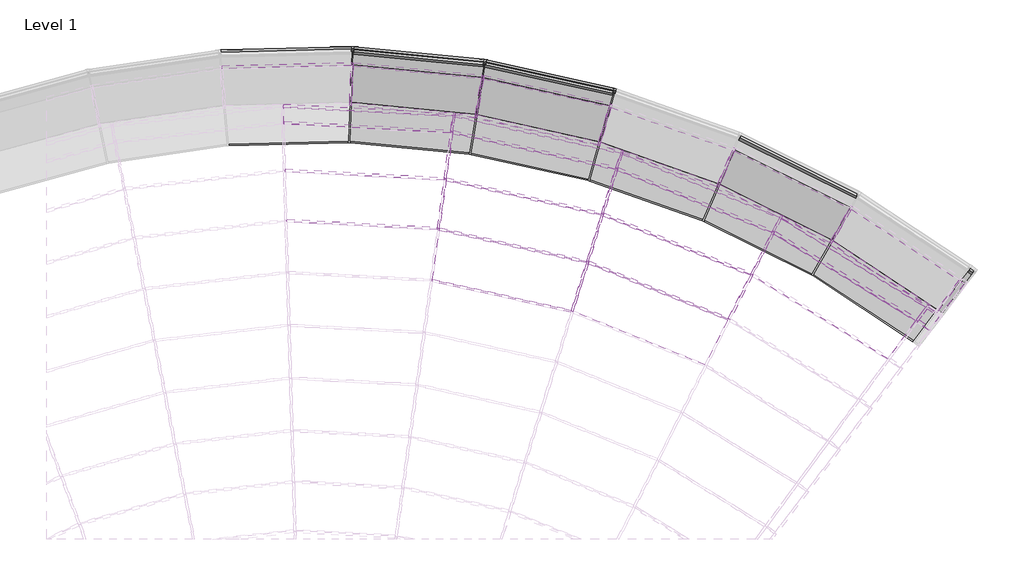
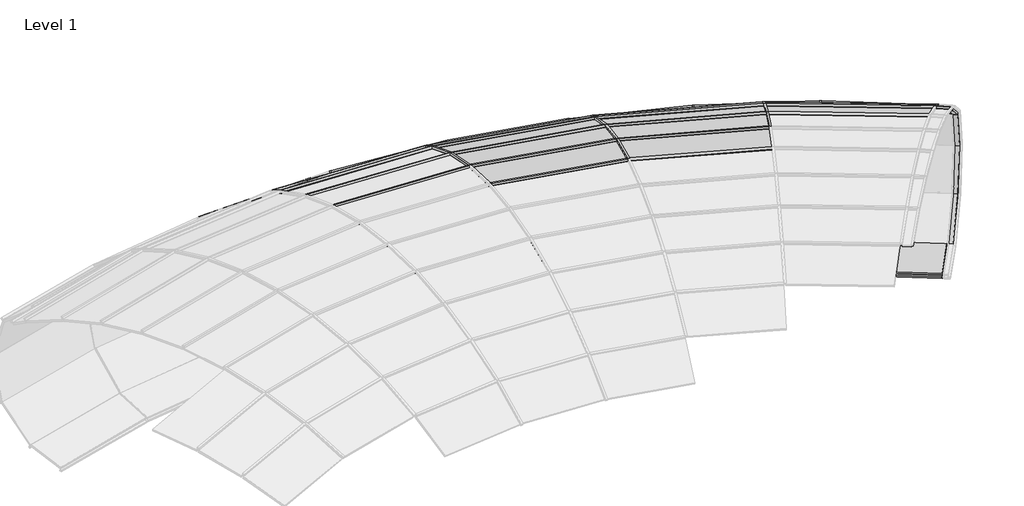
# One storey, part 12 of 23: 71 members, 34 plates.
"""IFC4 building model written with IfcOpenShell, lengths in millimetres."""

from ifc_helpers import new_model, si_unit, origin, place, context, project, spatial, transform, mapped, element, save
from components import member_6de91377, member_1c681369, member_20199af6, member_f0155a20, member_cc44513a, member_775132e8, member_b171f0c8, member_07455e61, member_515abc7c, member_6834bcaf, member_a3fa0b53, member_b335b832, member_0cd36c09, member_d0a40a1c, member_ff9adfd2, member_8c9da58c, member_391bee44, member_01ebdf2a, member_d6b8231b, system_panel_glazed_05378adf, system_panel_glazed_d39a2736, system_panel_glazed_45b67513, system_panel_glazed_45b4e97c, system_panel_glazed_73e5d392, system_panel_glazed_9a1bcf3f, system_panel_glazed_7c15174c, system_panel_glazed_a2a57e74, system_panel_glazed_cdd05a29, system_panel_glazed_56180ac8, system_panel_glazed_9e14ac5f, system_panel_glazed_7dd4ad5a, system_panel_glazed_3ffe7a12, system_panel_glazed_672f498d

model = new_model("IFC4")

# Units and contexts
model_context = context("Model", 3, world=origin())
ifc_project = project(units=[si_unit("LENGTHUNIT", "METRE", prefix="MILLI")], contexts=[model_context])

# Site, building, storey
site = spatial("IfcSite", under=ifc_project)
building = spatial("IfcBuilding", under=site)
storey = spatial("IfcBuildingStorey", under=building, Name="Level 1", Elevation=0.0)

# Members
placement = place(None, origin())
member_shape = member_6de91377(model_context)
element("IfcMember", 1, ObjectType="Rectangular Mullion : 1\" Square", at=placement, inside=storey, context=model_context, shape_type="MappedRepresentation", body=[
    mapped(member_shape, transform((2866.4116937, -3633.2019198, 2806.2019711), x_axis=(0.2147917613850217, 0.9644166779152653, -0.15415891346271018), y_axis=(0.03351267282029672, 0.1504721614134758, 0.9880460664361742), z_axis=(0.9760847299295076, -0.2173904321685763, 0.0))),
])
member_2_shape = member_1c681369(model_context)
element("IfcMember", 2, ObjectType="Rectangular Mullion : 1\" Square", at=placement, inside=storey, context=model_context, shape_type="MappedRepresentation", body=[
    mapped(member_2_shape, transform((1331.5307397, -2685.4647622, 2676.0506073), x_axis=(0.051342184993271, 0.9613900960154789, -0.27035728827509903), y_axis=(0.014417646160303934, 0.26997258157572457, 0.9627600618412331), z_axis=(0.9985770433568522, -0.053328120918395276, 0.0))),
])
element("IfcMember", 3, ObjectType="Rectangular Mullion : 1\" Square", at=placement, inside=storey, context=model_context, shape_type="MappedRepresentation", body=[
    mapped(member_2_shape, transform((3043.563615, -3064.6159726, 2676.0506073), x_axis=(0.20929482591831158, 0.939735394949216, -0.27035728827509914), y_axis=(0.05877308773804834, 0.26389162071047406, 0.9627600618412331), z_axis=(0.9760847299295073, -0.21739043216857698, 0.0))),
])
element("IfcMember", 4, ObjectType="Rectangular Mullion : 1\" Square", at=placement, inside=storey, context=model_context, shape_type="MappedRepresentation", body=[
    mapped(member_2_shape, transform((4669.5518199, -3721.1025024, 2676.0506073), x_axis=(0.3615081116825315, 0.8923109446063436, -0.27035728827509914), y_axis=(0.10151683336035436, 0.25057413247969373, 0.9627600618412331), z_axis=(0.9268258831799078, -0.37549138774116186, 0.0))),
])
member_3_shape = member_20199af6(model_context)
element("IfcMember", 5, ObjectType="Rectangular Mullion : 1\" Square", at=placement, inside=storey, context=model_context, shape_type="MappedRepresentation", body=[
    mapped(member_3_shape, transform((1409.7407637, -2114.9891047, 2475.91846), x_axis=(0.04926663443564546, 0.9225251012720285, -0.3827796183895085), y_axis=(0.020412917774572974, 0.38223493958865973, 0.9238396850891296), z_axis=(0.9985770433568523, -0.053328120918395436, 0.0))),
])
element("IfcMember", 6, ObjectType="Rectangular Mullion : 1\" Square", at=placement, inside=storey, context=model_context, shape_type="MappedRepresentation", body=[
    mapped(member_3_shape, transform((3214.8459331, -2514.8690753, 2475.91846), x_axis=(0.20083390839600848, 0.9017458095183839, -0.38277961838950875), y_axis=(0.08321262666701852, 0.37362534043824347, 0.9238396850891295), z_axis=(0.9760847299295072, -0.2173904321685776, 0.0))),
])
element("IfcMember", 7, ObjectType="Rectangular Mullion : 1\" Square", at=placement, inside=storey, context=model_context, shape_type="MappedRepresentation", body=[
    mapped(member_3_shape, transform((4929.2094692, -3207.1597149, 2475.91846), x_axis=(0.34689384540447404, 0.856238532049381, -0.3827796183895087), y_axis=(0.1437304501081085, 0.35477005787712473, 0.9238396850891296), z_axis=(0.9268258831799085, -0.37549138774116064, 0.0))),
])
member_4_shape = member_f0155a20(model_context)
element("IfcMember", 8, ObjectType="Rectangular Mullion : 1\" Square", at=placement, inside=storey, context=model_context, shape_type="MappedRepresentation", body=[
    mapped(member_4_shape, transform((1484.158, -1572.1786095, 2208.6526723), x_axis=(0.04649197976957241, 0.8705692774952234, -0.4898444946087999), y_axis=(0.026122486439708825, 0.489147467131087, 0.8718098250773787), z_axis=(0.9985770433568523, -0.05332812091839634, 0.0))),
])
element("IfcMember", 9, ObjectType="Rectangular Mullion : 1\" Square", at=placement, inside=storey, context=model_context, shape_type="MappedRepresentation", body=[
    mapped(member_4_shape, transform((3377.8219316, -1991.782101, 2208.6526723), x_axis=(0.18952311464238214, 0.8509602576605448, -0.4898444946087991), y_axis=(0.10648750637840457, 0.47812973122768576, 0.8718098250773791), z_axis=(0.9760847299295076, -0.21739043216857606, 0.0))),
])
element("IfcMember", 10, ObjectType="Rectangular Mullion : 1\" Square", at=placement, inside=storey, context=model_context, shape_type="MappedRepresentation", body=[
    mapped(member_4_shape, transform((5176.2750457, -2718.1405336, 2208.6526723), x_axis=(0.3273570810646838, 0.8080159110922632, -0.48984449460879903), y_axis=(0.18393238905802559, 0.4540005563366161, 0.8718098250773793), z_axis=(0.9268258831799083, -0.3754913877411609, 0.0))),
])
element("IfcMember", 11, ObjectType="Rectangular Mullion : 1\" Square", at=placement, inside=storey, context=model_context, shape_type="MappedRepresentation", body=[
    mapped(member_4_shape, transform((6830.1995383, -3731.3354549, 2208.6526723), x_axis=(0.45621414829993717, 0.7429138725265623, -0.4898444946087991), y_axis=(0.2563334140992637, 0.4174216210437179, 0.8718098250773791), z_axis=(0.8521512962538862, -0.5232954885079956, 0.0))),
])
member_5_shape = member_cc44513a(model_context)
element("IfcMember", 12, ObjectType="Rectangular Mullion : 1\" Square", at=placement, inside=storey, context=model_context, shape_type="MappedRepresentation", body=[
    mapped(member_5_shape, transform((6979.6758413, -3841.6645549, 2208.6526723), x_axis=(0.5216341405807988, 0.6975731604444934, -0.4912122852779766), y_axis=(0.29416918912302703, 0.3933878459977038, 0.8710398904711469), z_axis=(0.8008509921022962, -0.5988636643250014, 0.0))),
])
member_6_shape = member_775132e8(model_context)
element("IfcMember", 13, ObjectType="Rectangular Mullion : 1\" Square", at=placement, inside=storey, context=model_context, shape_type="MappedRepresentation", body=[
    mapped(member_6_shape, transform((1512.2259527, -1367.4467482, 2085.6089632), x_axis=(0.04577927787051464, 0.8572238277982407, -0.5129050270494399), y_axis=(0.027352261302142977, 0.5121751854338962, 0.8584453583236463), z_axis=(0.9985770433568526, -0.05332812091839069, 0.0))),
])
element("IfcMember", 14, ObjectType="Rectangular Mullion : 1\" Square", at=placement, inside=storey, context=model_context, shape_type="MappedRepresentation", body=[
    mapped(member_6_shape, transform((3439.291597, -1794.4893611, 2085.6089632), x_axis=(0.186617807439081, 0.8379154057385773, -0.5129050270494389), y_axis=(0.11150064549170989, 0.500638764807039, 0.858445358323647), z_axis=(0.9760847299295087, -0.2173904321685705, 0.0))),
])
element("IfcMember", 15, ObjectType="Rectangular Mullion : 1\" Square", at=placement, inside=storey, context=model_context, shape_type="MappedRepresentation", body=[
    mapped(member_6_shape, transform((5269.4607813, -2533.6971449, 2085.6089632), x_axis=(0.3223388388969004, 0.7956293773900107, -0.5129050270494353), y_axis=(0.1925914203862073, 0.47537365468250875, 0.8584453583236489), z_axis=(0.9268258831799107, -0.3754913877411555, 0.0))),
])
element("IfcMember", 16, ObjectType="Rectangular Mullion : 1\" Square", at=placement, inside=storey, context=model_context, shape_type="MappedRepresentation", body=[
    mapped(member_6_shape, transform((6952.5459728, -3564.7992878, 2085.6089632), x_axis=(0.44922058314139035, 0.7315253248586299, -0.5129050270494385), y_axis=(0.26840088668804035, 0.43707268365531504, 0.8584453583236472), z_axis=(0.8521512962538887, -0.523295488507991, 0.0))),
])
member_7_shape = member_b171f0c8(model_context)
element("IfcMember", 17, ObjectType="Rectangular Mullion : 1\" Square", at=placement, inside=storey, context=model_context, shape_type="MappedRepresentation", body=[
    mapped(member_7_shape, transform((347.4829914, -610.5149365, 1116.1918244), x_axis=(-0.0006524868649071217, 0.026521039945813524, -0.9996480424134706), y_axis=(-0.0245865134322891, 0.9993456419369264, 0.026529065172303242), z_axis=(0.9996974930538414, 0.024595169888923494, 0.0))),
])
element("IfcMember", 18, ObjectType="Rectangular Mullion : 1\" Square", at=placement, inside=storey, context=model_context, shape_type="MappedRepresentation", body=[
    mapped(member_7_shape, transform((1867.0706775, -756.638217, 1116.1918244), x_axis=(0.00256593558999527, 0.02640468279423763, -0.9996480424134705), y_axis=(0.0966876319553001, 0.9949611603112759, 0.026529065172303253), z_axis=(0.9953114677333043, -0.09672167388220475, 0.0))),
])
element("IfcMember", 19, ObjectType="Rectangular Mullion : 1\" Square", at=placement, inside=storey, context=model_context, shape_type="MappedRepresentation", body=[
    mapped(member_7_shape, transform((3357.7551818, -1085.8166758, 1116.1918244), x_axis=(0.005746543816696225, 0.025899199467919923, -0.9996480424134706), y_axis=(0.2165368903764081, 0.9759139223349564, 0.02652906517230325), z_axis=(0.9762575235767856, -0.21661312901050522, 0.0))),
])
member_8_shape = member_07455e61(model_context)
element("IfcMember", 20, ObjectType="Rectangular Mullion : 1\" Square", at=placement, inside=storey, context=model_context, shape_type="MappedRepresentation", body=[
    mapped(member_8_shape, transform((341.871143, -765.7378742, 526.7119632), x_axis=(0.012706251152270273, -0.5164594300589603, -0.8562173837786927), y_axis=(-0.02105881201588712, 0.8559583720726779, -0.5166157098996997), z_axis=(0.9996974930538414, 0.024595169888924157, 0.0))),
])
element("IfcMember", 21, ObjectType="Rectangular Mullion : 1\" Square", at=placement, inside=storey, context=model_context, shape_type="MappedRepresentation", body=[
    mapped(member_8_shape, transform((1842.6914644, -910.0373931, 526.7119632), x_axis=(-0.049967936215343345, -0.5141935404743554, -0.8562173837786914), y_axis=(0.08281477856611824, 0.8522029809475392, -0.5166157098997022), z_axis=(0.995311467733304, -0.09672167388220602, 0.0))),
])
element("IfcMember", 22, ObjectType="Rectangular Mullion : 1\" Square", at=placement, inside=storey, context=model_context, shape_type="MappedRepresentation", body=[
    mapped(member_8_shape, transform((3314.9678808, -1235.1314444, 526.7119632), x_axis=(-0.1119057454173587, -0.5043499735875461, -0.8562173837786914), y_axis=(0.1854679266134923, 0.8358886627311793, -0.5166157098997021), z_axis=(0.9762575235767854, -0.2166131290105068, 0.0))),
])
member_9_shape = member_515abc7c(model_context)
element("IfcMember", 23, ObjectType="Rectangular Mullion : 1\" Square", at=placement, inside=storey, context=model_context, shape_type="MappedRepresentation", body=[
    mapped(member_9_shape, transform((340.752181, -796.6882063, 1696.6281859), x_axis=(-0.013804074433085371, 0.5610816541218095, -0.8276453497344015), y_axis=(-0.02035607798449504, 0.827394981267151, 0.5612514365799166), z_axis=(0.9996974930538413, 0.02459516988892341, 0.0))),
])
element("IfcMember", 24, ObjectType="Rectangular Mullion : 1\" Square", at=placement, inside=storey, context=model_context, shape_type="MappedRepresentation", body=[
    mapped(member_9_shape, transform((1837.8304255, -940.6240802, 1696.6281859), x_axis=(0.054285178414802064, 0.5586199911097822, -0.8276453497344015), y_axis=(0.08005124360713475, 0.8237649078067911, 0.5612514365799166), z_axis=(0.9953114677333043, -0.09672167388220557, 0.0))),
])
element("IfcMember", 25, ObjectType="Rectangular Mullion : 1\" Square", at=placement, inside=storey, context=model_context, shape_type="MappedRepresentation", body=[
    mapped(member_9_shape, transform((3306.4364022, -1264.9037302, 1696.6281859), x_axis=(0.12157442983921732, 0.5479259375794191, -0.8276453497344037), y_axis=(0.1792788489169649, 0.8079949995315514, 0.5612514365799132), z_axis=(0.9762575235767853, -0.2166131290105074, 0.0))),
])
member_10_shape = member_6834bcaf(model_context)
element("IfcMember", 26, ObjectType="Rectangular Mullion : 1\" Square", at=placement, inside=storey, context=model_context, shape_type="MappedRepresentation", body=[
    mapped(member_10_shape, transform((325.6802554, -1213.5755484, 113.4427618), x_axis=(0.022043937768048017, -0.89599988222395, -0.44350679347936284), y_axis=(-0.010908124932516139, 0.44337262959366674, -0.8962710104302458), z_axis=(0.9996974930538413, 0.024595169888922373, 0.0))),
])
element("IfcMember", 27, ObjectType="Rectangular Mullion : 1\" Square", at=placement, inside=storey, context=model_context, shape_type="MappedRepresentation", body=[
    mapped(member_10_shape, transform((1772.3543722, -1352.6132856, 113.4427618), x_axis=(-0.08668883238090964, -0.8920688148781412, -0.44350679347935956), y_axis=(0.04289671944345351, 0.44142739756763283, -0.8962710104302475), z_axis=(0.995311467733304, -0.096721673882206, 0.0))),
])
element("IfcMember", 28, ObjectType="Rectangular Mullion : 1\" Square", at=placement, inside=storey, context=model_context, shape_type="MappedRepresentation", body=[
    mapped(member_10_shape, transform((3191.5211425, -1665.9233083, 113.4427618), x_axis=(-0.1941440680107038, -0.8749913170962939, -0.4435067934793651), y_axis=(0.09606939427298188, 0.4329768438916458, -0.8962710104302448), z_axis=(0.9762575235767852, -0.21661312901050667, 0.0))),
])
element("IfcMember", 29, ObjectType="Rectangular Mullion : 1\" Square", at=placement, inside=storey, context=model_context, shape_type="MappedRepresentation", body=[
    mapped(member_10_shape, transform((4562.2662862, -2148.8883624, 113.4427618), x_axis=(-0.29873819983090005, -0.8450190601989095, -0.44350679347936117), y_axis=(0.14782629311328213, 0.4181455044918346, -0.8962710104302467), z_axis=(0.9428164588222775, -0.3333123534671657, 0.0))),
])
element("IfcMember", 30, ObjectType="Rectangular Mullion : 1\" Square", at=placement, inside=storey, context=model_context, shape_type="MappedRepresentation", body=[
    mapped(member_10_shape, transform((5864.3891132, -2794.3909852, 113.4427618), x_axis=(-0.39892982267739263, -0.8025937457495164, -0.4435067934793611), y_axis=(0.19740467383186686, 0.39715194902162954, -0.8962710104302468), z_axis=(0.8954810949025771, -0.4450995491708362, 0.0))),
])
member_11_shape = member_a3fa0b53(model_context)
element("IfcMember", 31, ObjectType="Rectangular Mullion : 1\" Square", at=placement, inside=storey, context=model_context, shape_type="MappedRepresentation", body=[
    mapped(member_11_shape, transform((308.208576, -1696.8397434, 0.0), x_axis=(0.023942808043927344, -0.9731815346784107, -0.2287890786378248), y_axis=(-0.005627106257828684, 0.22871986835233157, -0.9734760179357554), z_axis=(0.9996974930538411, 0.02459516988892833, 0.0))),
])
element("IfcMember", 32, ObjectType="Rectangular Mullion : 1\" Square", at=placement, inside=storey, context=model_context, shape_type="MappedRepresentation", body=[
    mapped(member_11_shape, transform((1696.4532137, -1830.199462, 0.0), x_axis=(-0.09415622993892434, -0.96891184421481, -0.22878907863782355), y_axis=(0.02212886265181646, 0.22771639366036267, -0.9734760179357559), z_axis=(0.9953114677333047, -0.09672167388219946, 0.0))),
])
element("IfcMember", 33, ObjectType="Rectangular Mullion : 1\" Square", at=placement, inside=storey, context=model_context, shape_type="MappedRepresentation", body=[
    mapped(member_11_shape, transform((3058.3090614, -2130.793272, 0.0), x_axis=(-0.21086768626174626, -0.9503632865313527, -0.22878907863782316), y_axis=(0.04955871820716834, 0.22335705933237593, -0.9734760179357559), z_axis=(0.9762575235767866, -0.21661312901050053, 0.0))),
])
element("IfcMember", 34, ObjectType="Rectangular Mullion : 1\" Square", at=placement, inside=storey, context=model_context, shape_type="MappedRepresentation", body=[
    mapped(member_11_shape, transform((4373.7064307, -2594.1913184, 0.0), x_axis=(-0.32447158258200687, -0.9178092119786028, -0.22878907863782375), y_axis=(0.07625822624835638, 0.21570610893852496, -0.9734760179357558), z_axis=(0.942816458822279, -0.3333123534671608, 0.0))),
])
element("IfcMember", 35, ObjectType="Rectangular Mullion : 1\" Square", at=placement, inside=storey, context=model_context, shape_type="MappedRepresentation", body=[
    mapped(member_11_shape, transform((5623.2602924, -3213.5644976, 0.0), x_axis=(-0.4332937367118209, -0.8717293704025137, -0.22878907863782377), y_axis=(0.10183391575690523, 0.20487629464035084, -0.9734760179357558), z_axis=(0.8954810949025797, -0.4450995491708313, 0.0))),
])
element("IfcMember", 36, ObjectType="Rectangular Mullion : 1\" Square", at=placement, inside=storey, context=model_context, shape_type="MappedRepresentation", body=[
    mapped(member_11_shape, transform((6788.5559541, -3979.7850987, 0.0), x_axis=(-0.5357304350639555, -0.8128028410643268, -0.22878907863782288), y_axis=(0.12590887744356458, 0.19102721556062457, -0.9734760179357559), z_axis=(0.8349490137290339, -0.5503273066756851, 0.0))),
])
member_12_shape = member_b335b832(model_context)
element("IfcMember", 37, ObjectType="Rectangular Mullion : 1\" Square", at=placement, inside=storey, context=model_context, shape_type="MappedRepresentation", body=[
    mapped(member_12_shape, transform((349.1305982, -1266.6655463, 2085.6089632), x_axis=(-0.07441584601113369, -0.7657740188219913, 0.638789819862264), y_axis=(0.06178482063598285, 0.6357948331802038, 0.7693812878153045), z_axis=(-0.9953114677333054, 0.09672167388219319, 0.0))),
])
element("IfcMember", 38, ObjectType="Rectangular Mullion : 1\" Square", at=placement, inside=storey, context=model_context, shape_type="MappedRepresentation", body=[
    mapped(member_12_shape, transform((1789.1988854, -1408.1536208, 2085.6089632), x_axis=(-0.16665808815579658, -0.7511142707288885, 0.6387898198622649), y_axis=(0.13837026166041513, 0.6236233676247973, 0.7693812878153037), z_axis=(-0.9762575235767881, 0.2166131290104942, 0.0))),
])
element("IfcMember", 39, ObjectType="Rectangular Mullion : 1\" Square", at=placement, inside=storey, context=model_context, shape_type="MappedRepresentation", body=[
    mapped(member_12_shape, transform((3201.5115884, -1723.0954821, 2085.6089632), x_axis=(-0.2564442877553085, -0.7253853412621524, 0.6387898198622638), y_axis=(0.21291653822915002, 0.6022615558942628, 0.7693812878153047), z_axis=(-0.9428164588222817, 0.33331235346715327, 0.0))),
])
element("IfcMember", 40, ObjectType="Rectangular Mullion : 1\" Square", at=placement, inside=storey, context=model_context, shape_type="MappedRepresentation", body=[
    mapped(member_12_shape, transform((4565.2554354, -2206.8498276, 2085.6089632), x_axis=(-0.3424512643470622, -0.6889663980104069, 0.6387898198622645), y_axis=(0.28432506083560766, 0.5720242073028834, 0.7693812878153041), z_axis=(-0.8954810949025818, 0.44509954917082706, 0.0))),
])
element("IfcMember", 41, ObjectType="Rectangular Mullion : 1\" Square", at=placement, inside=storey, context=model_context, shape_type="MappedRepresentation", body=[
    mapped(member_12_shape, transform((5860.3329145, -2852.2875629, 2085.6089632), x_axis=(-0.42341153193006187, -0.6423941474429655, 0.6387898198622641), y_axis=(0.35154348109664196, 0.5333569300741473, 0.7693812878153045), z_axis=(-0.834949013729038, 0.550327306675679, 0.0))),
])
member_13_shape = member_0cd36c09(model_context)
element("IfcMember", 42, ObjectType="Rectangular Mullion : 1\" Square", at=placement, inside=storey, context=model_context, shape_type="MappedRepresentation", body=[
    mapped(member_13_shape, transform((1344.2126682, -2686.1420293, 2676.0506073), x_axis=(0.9907327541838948, -0.13582565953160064, 0.0), y_axis=(0.0445916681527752, 0.3252583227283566, 0.944573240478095), z_axis=(-0.12829728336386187, -0.9358196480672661, 0.3283007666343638))),
])
element("IfcMember", 43, ObjectType="Rectangular Mullion : 1\" Square", at=placement, inside=storey, context=model_context, shape_type="MappedRepresentation", body=[
    mapped(member_13_shape, transform((2878.8079698, -3635.9627782, 2806.2019711), x_axis=(0.9547335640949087, -0.29746230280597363, 0.0), y_axis=(0.06350906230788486, 0.20383837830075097, 0.9769424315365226), z_axis=(-0.2906035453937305, -0.9327197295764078, 0.2135028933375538))),
])
element("IfcMember", 44, ObjectType="Rectangular Mullion : 1\" Square", at=placement, inside=storey, context=model_context, shape_type="MappedRepresentation", body=[
    mapped(member_13_shape, transform((3055.959891, -3067.3768311, 2676.0506073), x_axis=(0.9547335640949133, -0.29746230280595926, 0.0), y_axis=(0.09765710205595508, 0.3134397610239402, 0.9445732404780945), z_axis=(-0.28097493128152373, -0.9018157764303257, 0.3283007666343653))),
])
element("IfcMember", 45, ObjectType="Rectangular Mullion : 1\" Square", at=placement, inside=storey, context=model_context, shape_type="MappedRepresentation", body=[
    mapped(member_13_shape, transform((4681.3225086, -3725.871243, 2676.0506073), x_axis=(0.8925533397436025, -0.4509418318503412, 0.0), y_axis=(0.14804454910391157, 0.2930259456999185, 0.9445732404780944), z_axis=(-0.4259475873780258, -0.8430820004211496, 0.3283007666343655))),
])
member_14_shape = member_d0a40a1c(model_context)
element("IfcMember", 46, ObjectType="Rectangular Mullion : 1\" Square", at=placement, inside=storey, context=model_context, shape_type="MappedRepresentation", body=[
    mapped(member_14_shape, transform((1422.4226921, -2115.6663718, 2475.91846), x_axis=(0.9907327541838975, -0.13582565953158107, 0.0), y_axis=(0.05954978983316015, 0.43436510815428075, 0.8987662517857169), z_axis=(-0.12207551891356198, -0.890437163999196, 0.4384281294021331))),
])
element("IfcMember", 47, ObjectType="Rectangular Mullion : 1\" Square", at=placement, inside=storey, context=model_context, shape_type="MappedRepresentation", body=[
    mapped(member_14_shape, transform((3227.2422092, -2517.6299338, 2475.91846), x_axis=(0.9547335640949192, -0.29746230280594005, 0.0), y_axis=(0.13041584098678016, 0.4185820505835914, 0.8987662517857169), z_axis=(-0.2673490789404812, -0.858082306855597, 0.43842812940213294))),
])
element("IfcMember", 48, ObjectType="Rectangular Mullion : 1\" Square", at=placement, inside=storey, context=model_context, shape_type="MappedRepresentation", body=[
    mapped(member_14_shape, transform((4940.9801579, -3211.9284555, 2475.91846), x_axis=(0.8925533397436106, -0.4509418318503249, 0.0), y_axis=(0.19770558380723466, 0.3913204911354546, 0.8987662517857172), z_axis=(-0.4052912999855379, -0.8021968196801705, 0.4384281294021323))),
])
member_15_shape = member_ff9adfd2(model_context)
element("IfcMember", 49, ObjectType="Rectangular Mullion : 1\" Square", at=placement, inside=storey, context=model_context, shape_type="MappedRepresentation", body=[
    mapped(member_15_shape, transform((1496.8399284, -1572.8558767, 2208.6526723), x_axis=(0.9907327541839, -0.1358256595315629, 0.0), y_axis=(0.06948914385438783, 0.5068642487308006, 0.8592205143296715), z_axis=(-0.11670419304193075, -0.8512579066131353, 0.5116054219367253))),
])
element("IfcMember", 50, ObjectType="Rectangular Mullion : 1\" Square", at=placement, inside=storey, context=model_context, shape_type="MappedRepresentation", body=[
    mapped(member_15_shape, transform((3390.2182077, -1994.5429595, 2208.6526723), x_axis=(0.954733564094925, -0.2974623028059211, 0.0), y_axis=(0.15218332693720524, 0.4884468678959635, 0.8592205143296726), z_axis=(-0.25558571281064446, -0.8203266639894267, 0.5116054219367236))),
])
element("IfcMember", 51, ObjectType="Rectangular Mullion : 1\" Square", at=placement, inside=storey, context=model_context, shape_type="MappedRepresentation", body=[
    mapped(member_15_shape, transform((5188.0457344, -2722.9092742, 2208.6526723), x_axis=(0.8925533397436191, -0.4509418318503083, 0.0), y_axis=(0.2307042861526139, 0.45663512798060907, 0.8592205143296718), z_axis=(-0.3874584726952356, -0.7669001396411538, 0.511605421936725))),
])
element("IfcMember", 52, ObjectType="Rectangular Mullion : 1\" Square", at=placement, inside=storey, context=model_context, shape_type="MappedRepresentation", body=[
    mapped(member_15_shape, transform((6841.0218598, -3737.9813076, 2208.6526723), x_axis=(0.8058972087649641, -0.592055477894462, 0.0), y_axis=(0.30289879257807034, 0.41230138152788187, 0.8592205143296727), z_axis=(-0.5087062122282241, -0.6924434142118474, 0.5116054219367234))),
])
member_16_shape = member_8c9da58c(model_context)
element("IfcMember", 53, ObjectType="Rectangular Mullion : 1\" Square", at=placement, inside=storey, context=model_context, shape_type="MappedRepresentation", body=[
    mapped(member_16_shape, transform((353.4483391, -796.3758477, 1696.6281859), x_axis=(0.999347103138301, -0.036129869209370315, 0.0), y_axis=(0.03440139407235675, 0.951537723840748, 0.3056018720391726), z_axis=(-0.011041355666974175, -0.3054023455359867, 0.9521593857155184))),
])
element("IfcMember", 54, ObjectType="Rectangular Mullion : 1\" Square", at=placement, inside=storey, context=model_context, shape_type="MappedRepresentation", body=[
    mapped(member_16_shape, transform((360.1791495, -610.2025778, 1116.1918244), x_axis=(0.9993471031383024, -0.03612986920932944, 0.0), y_axis=(0.03493738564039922, 0.9663631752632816, -0.25479715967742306), z_axis=(0.00920578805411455, 0.25463080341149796, 0.9669945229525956))),
])
element("IfcMember", 55, ObjectType="Rectangular Mullion : 1\" Square", at=placement, inside=storey, context=model_context, shape_type="MappedRepresentation", body=[
    mapped(member_16_shape, transform((1850.4708811, -941.8524455, 1696.6281859), x_axis=(0.9876054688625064, -0.15695680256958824, 0.0), y_axis=(0.14944789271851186, 0.9403578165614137, 0.30560187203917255), z_axis=(-0.047966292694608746, -0.30181408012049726, 0.9521593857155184))),
])
element("IfcMember", 56, ObjectType="Rectangular Mullion : 1\" Square", at=placement, inside=storey, context=model_context, shape_type="MappedRepresentation", body=[
    mapped(member_16_shape, transform((1879.7111332, -757.8665822, 1116.1918244), x_axis=(0.9876054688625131, -0.15695680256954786, 0.0), y_axis=(0.15177636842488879, 0.9550090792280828, -0.254797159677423), z_axis=(0.039992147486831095, 0.25163906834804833, 0.9669945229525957))),
])
element("IfcMember", 57, ObjectType="Rectangular Mullion : 1\" Square", at=placement, inside=storey, context=model_context, shape_type="MappedRepresentation", body=[
    mapped(member_16_shape, transform((3318.8348727, -1267.654717, 1696.6281859), x_axis=(0.9613094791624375, -0.2754706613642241, 0.0), y_axis=(0.2622919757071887, 0.9153198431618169, 0.3056018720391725), z_axis=(-0.0841843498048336, -0.29377797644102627, 0.9521593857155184))),
])
element("IfcMember", 58, ObjectType="Rectangular Mullion : 1\" Square", at=placement, inside=storey, context=model_context, shape_type="MappedRepresentation", body=[
    mapped(member_16_shape, transform((3370.1536524, -1088.5676625, 1116.1918244), x_axis=(0.9613094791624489, -0.2754706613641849, 0.0), y_axis=(0.2663786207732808, 0.9295810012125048, -0.2547971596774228), z_axis=(0.07018914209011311, 0.24493892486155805, 0.9669945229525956))),
])
member_17_shape = member_391bee44(model_context)
element("IfcMember", 59, ObjectType="Rectangular Mullion : 1\" Square", at=placement, inside=storey, context=model_context, shape_type="MappedRepresentation", body=[
    mapped(member_17_shape, transform((354.5673011, -765.4255156, 526.7119632), x_axis=(0.999347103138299, -0.03612986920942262, 0.0), y_axis=(0.02449370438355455, 0.6774924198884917, -0.7351218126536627), z_axis=(0.02655985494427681, 0.7346418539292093, 0.6779350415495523))),
])
element("IfcMember", 60, ObjectType="Rectangular Mullion : 1\" Square", at=placement, inside=storey, context=model_context, shape_type="MappedRepresentation", body=[
    mapped(member_17_shape, transform((1855.3319201, -911.2657583, 526.7119632), x_axis=(0.9876054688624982, -0.15695680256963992, 0.0), y_axis=(0.10640651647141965, 0.6695323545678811, -0.7351218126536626), z_axis=(0.11538236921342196, 0.7260103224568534, 0.6779350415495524))),
])
element("IfcMember", 61, ObjectType="Rectangular Mullion : 1\" Square", at=placement, inside=storey, context=model_context, shape_type="MappedRepresentation", body=[
    mapped(member_17_shape, transform((3327.3663514, -1237.8824311, 526.7119632), x_axis=(0.9613094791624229, -0.2754706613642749, 0.0), y_axis=(0.18675121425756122, 0.6517053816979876, -0.7351218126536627), z_axis=(0.20250449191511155, 0.7066795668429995, 0.6779350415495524))),
])
member_18_shape = member_01ebdf2a(model_context)
element("IfcMember", 62, ObjectType="Rectangular Mullion : 1\" Square", at=placement, inside=storey, context=model_context, shape_type="MappedRepresentation", body=[
    mapped(member_18_shape, transform((338.3764136, -1213.2631897, 113.4427618), x_axis=(0.9993471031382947, -0.0361298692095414, 0.0), y_axis=(0.008251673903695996, 0.22824014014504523, -0.9735698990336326), z_axis=(0.03517495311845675, 0.9729342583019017, 0.22838925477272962))),
])
element("IfcMember", 63, ObjectType="Rectangular Mullion : 1\" Square", at=placement, inside=storey, context=model_context, shape_type="MappedRepresentation", body=[
    mapped(member_18_shape, transform((1784.9948278, -1353.8416509, 113.4427618), x_axis=(0.9876054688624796, -0.15695680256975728, 0.0), y_axis=(0.035847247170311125, 0.2255584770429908, -0.9735698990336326), z_axis=(0.15280841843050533, 0.9615029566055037, 0.22838925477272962))),
])
element("IfcMember", 64, ObjectType="Rectangular Mullion : 1\" Square", at=placement, inside=storey, context=model_context, shape_type="MappedRepresentation", body=[
    mapped(member_18_shape, transform((3203.9196131, -1668.6742951, 113.4427618), x_axis=(0.9613094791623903, -0.27547066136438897, 0.0), y_axis=(0.06291453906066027, 0.21955275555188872, -0.9735698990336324), z_axis=(0.26818994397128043, 0.9359019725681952, 0.22838925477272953))),
])
element("IfcMember", 65, ObjectType="Rectangular Mullion : 1\" Square", at=placement, inside=storey, context=model_context, shape_type="MappedRepresentation", body=[
    mapped(member_18_shape, transform((4574.2400553, -2153.1214293, 113.4427618), x_axis=(0.92084665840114, -0.3899249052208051, 0.0), y_axis=(0.08905465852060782, 0.21031148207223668, -0.9735698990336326), z_axis=(0.3796191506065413, 0.896508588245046, 0.2283892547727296))),
])
element("IfcMember", 66, ObjectType="Rectangular Mullion : 1\" Square", at=placement, inside=storey, context=model_context, shape_type="MappedRepresentation", body=[
    mapped(member_18_shape, transform((5875.7617231, -2800.0437495, 113.4427618), x_axis=(0.8668133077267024, -0.4986328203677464, 0.0), y_axis=(0.11388237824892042, 0.19797084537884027, -0.9735698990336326), z_axis=(0.48545390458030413, 0.8439033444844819, 0.22838925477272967))),
])
member_19_shape = member_d6b8231b(model_context)
element("IfcMember", 67, ObjectType="Rectangular Mullion : 1\" Square", at=placement, inside=storey, context=model_context, shape_type="MappedRepresentation", body=[
    mapped(member_19_shape, transform((5849.729062, -2845.2984061, 2085.6089632), x_axis=(0.8668133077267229, -0.49863282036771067, 0.0), y_axis=(0.31817352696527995, 0.5531064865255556, 0.7699602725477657), z_axis=(-0.38392746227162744, -0.6674118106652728, 0.6380918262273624))),
])
element("IfcMember", 68, ObjectType="Rectangular Mullion : 1\" Square", at=placement, inside=storey, context=model_context, shape_type="MappedRepresentation", body=[
    mapped(member_19_shape, transform((4553.8828255, -2201.1970633, 2085.6089632), x_axis=(0.9208466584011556, -0.3899249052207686, 0.0), y_axis=(0.24880789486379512, 0.5875847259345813, 0.7699602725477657), z_axis=(-0.3002266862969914, -0.7090153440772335, 0.6380918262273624))),
])
element("IfcMember", 69, ObjectType="Rectangular Mullion : 1\" Square", at=placement, inside=storey, context=model_context, shape_type="MappedRepresentation", body=[
    mapped(member_19_shape, transform((3189.5378194, -1718.8624152, 2085.6089632), x_axis=(0.9613094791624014, -0.2754706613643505, 0.0), y_axis=(0.17577557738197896, 0.6134037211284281, 0.7699602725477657), z_axis=(-0.21210146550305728, -0.7401701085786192, 0.6380918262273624))),
])
element("IfcMember", 70, ObjectType="Rectangular Mullion : 1\" Square", at=placement, inside=storey, context=model_context, shape_type="MappedRepresentation", body=[
    mapped(member_19_shape, transform((1776.8004148, -1405.402634, 2085.6089632), x_axis=(0.987605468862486, -0.15695680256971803, 0.0), y_axis=(0.10015285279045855, 0.6301829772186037, 0.7699602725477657), z_axis=(-0.12085050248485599, -0.7604169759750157, 0.6380918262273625))),
])
element("IfcMember", 71, ObjectType="Rectangular Mullion : 1\" Square", at=placement, inside=storey, context=model_context, shape_type="MappedRepresentation", body=[
    mapped(member_19_shape, transform((336.4901425, -1265.4371811, 2085.6089632), x_axis=(0.9993471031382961, -0.03612986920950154, 0.0), y_axis=(0.023054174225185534, 0.6376752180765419, 0.7699602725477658), z_axis=(-0.027818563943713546, -0.7694575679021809, 0.6380918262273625))),
])

# Plates
system_panel_glazed_shape = system_panel_glazed_05378adf(model_context)
element("IfcPlate", 72, ObjectType="System Panel : Glazed", at=placement, inside=storey, context=model_context, shape_type="MappedRepresentation", body=[
    mapped(system_panel_glazed_shape, transform((2073.762009, -3443.9563869, 2803.4815699), x_axis=(0.97608472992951, -0.2173904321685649, 0.0), y_axis=(-0.046566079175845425, -0.20908205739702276, -0.9767887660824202), z_axis=(0.21234453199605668, 0.9534285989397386, -0.21420482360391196))),
])
element("IfcPlate", 73, ObjectType="System Panel : Glazed", at=placement, inside=storey, context=model_context, shape_type="MappedRepresentation", body=[
    mapped(system_panel_glazed_shape, transform((3650.4454164, -3935.1969746, 2803.4815699), x_axis=(0.9268258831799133, -0.3754913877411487, 0.0), y_axis=(-0.08043206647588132, -0.19853057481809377, -0.97678876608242), z_axis=(0.3667757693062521, 0.9053131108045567, -0.21420482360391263))),
])
system_panel_glazed_2_shape = system_panel_glazed_d39a2736(model_context)
element("IfcPlate", 74, ObjectType="System Panel : Glazed", at=placement, inside=storey, context=model_context, shape_type="MappedRepresentation", body=[
    mapped(system_panel_glazed_2_shape, transform((2202.6931431, -2865.054593, 2671.8683773), x_axis=(0.9760847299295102, -0.2173904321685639, 0.0), y_axis=(-0.07158872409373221, -0.3214339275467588, -0.9442220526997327), z_axis=(0.2052648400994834, 0.9216407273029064, -0.32930945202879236))),
])
element("IfcPlate", 75, ObjectType="System Panel : Glazed", at=placement, inside=storey, context=model_context, shape_type="MappedRepresentation", body=[
    mapped(system_panel_glazed_2_shape, transform((3873.1439499, -3385.5098932, 2671.8683773), x_axis=(0.9268258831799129, -0.3754913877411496, 0.0), y_axis=(-0.12365286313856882, -0.3052125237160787, -0.9442220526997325), z_axis=(0.3545472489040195, 0.87512943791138, -0.32930945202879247))),
])
system_panel_glazed_3_shape = system_panel_glazed_45b67513(model_context)
element("IfcPlate", 76, ObjectType="System Panel : Glazed", at=placement, inside=storey, context=model_context, shape_type="MappedRepresentation", body=[
    mapped(system_panel_glazed_3_shape, transform((2327.3121725, -2305.5141825, 2470.3349411), x_axis=(0.9760847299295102, -0.2173904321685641, 0.0), y_axis=(-0.09557508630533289, -0.42913288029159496, -0.898170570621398), z_axis=(0.19525368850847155, 0.8766905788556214, -0.43964716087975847))),
])
element("IfcPlate", 77, ObjectType="System Panel : Glazed", at=placement, inside=storey, context=model_context, shape_type="MappedRepresentation", body=[
    mapped(system_panel_glazed_3_shape, transform((4088.394326, -2854.2071085, 2470.3349411), x_axis=(0.926825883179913, -0.3754913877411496, 0.0), y_axis=(-0.1650837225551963, -0.4074763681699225, -0.8981705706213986), z_axis=(0.33725531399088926, 0.8324477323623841, -0.43964716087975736))),
])
element("IfcPlate", 78, ObjectType="System Panel : Glazed", at=placement, inside=storey, context=model_context, shape_type="MappedRepresentation", body=[
    mapped(system_panel_glazed_3_shape, transform((5734.7800998, -3686.0052585, 2470.3349411), x_axis=(0.8521512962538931, -0.5232954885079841, 0.0), y_axis=(-0.23006537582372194, -0.3746458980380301, -0.8981705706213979), z_axis=(0.4700086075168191, 0.7653772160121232, -0.43964716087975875))),
])
system_panel_glazed_4_shape = system_panel_glazed_45b4e97c(model_context)
element("IfcPlate", 79, ObjectType="System Panel : Glazed", at=placement, inside=storey, context=model_context, shape_type="MappedRepresentation", body=[
    mapped(system_panel_glazed_4_shape, transform((528.9172466, -1510.2470331, 2202.1387785), x_axis=(0.998577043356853, -0.05332812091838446, 0.0), y_axis=(-0.02735226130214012, -0.5121751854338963, -0.8584453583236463), z_axis=(0.04577927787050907, 0.8572238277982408, -0.5129050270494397))),
])
element("IfcPlate", 80, ObjectType="System Panel : Glazed", at=placement, inside=storey, context=model_context, shape_type="MappedRepresentation", body=[
    mapped(system_panel_glazed_4_shape, transform((2445.8991142, -1773.0578924, 2202.1387785), x_axis=(0.9760847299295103, -0.21739043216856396, 0.0), y_axis=(-0.11150064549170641, -0.5006387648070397, -0.858445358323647), z_axis=(0.18661780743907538, 0.8379154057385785, -0.5129050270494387))),
])
element("IfcPlate", 81, ObjectType="System Panel : Glazed", at=placement, inside=storey, context=model_context, shape_type="MappedRepresentation", body=[
    mapped(system_panel_glazed_4_shape, transform((4293.2256743, -2348.6216238, 2202.1387785), x_axis=(0.9268258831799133, -0.37549138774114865, 0.0), y_axis=(-0.19259142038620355, -0.4753736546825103, -0.8584453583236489), z_axis=(0.32233883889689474, 0.7956293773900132, -0.5129050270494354))),
])
element("IfcPlate", 82, ObjectType="System Panel : Glazed", at=placement, inside=storey, context=model_context, shape_type="MappedRepresentation", body=[
    mapped(system_panel_glazed_4_shape, transform((6020.2388985, -3221.1549193, 2202.1387785), x_axis=(0.8521512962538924, -0.523295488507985, 0.0), y_axis=(-0.2684008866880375, -0.43707268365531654, -0.8584453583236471), z_axis=(0.4492205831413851, 0.7315253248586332, -0.5129050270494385))),
])
system_panel_glazed_5_shape = system_panel_glazed_73e5d392(model_context)
element("IfcPlate", 83, ObjectType="System Panel : Glazed", at=placement, inside=storey, context=model_context, shape_type="MappedRepresentation", body=[
    mapped(system_panel_glazed_5_shape, transform((6921.9689186, -3784.8867303, 2202.1551112), x_axis=(0.8008509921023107, -0.598863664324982, 0.0), y_axis=(-0.30639001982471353, -0.4097305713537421, -0.8592124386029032), z_axis=(0.5145511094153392, 0.6881011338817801, -0.5116189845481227))),
])
system_panel_glazed_6_shape = system_panel_glazed_9a1bcf3f(model_context)
element("IfcPlate", 84, ObjectType="System Panel : Glazed", at=placement, inside=storey, context=model_context, shape_type="MappedRepresentation", body=[
    mapped(system_panel_glazed_6_shape, transform((1058.5354412, -1315.9692475, 2069.3837017), x_axis=(0.9953114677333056, -0.09672167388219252, 0.0), y_axis=(-0.06178482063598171, -0.6357948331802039, -0.7693812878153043), z_axis=(0.07441584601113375, 0.7657740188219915, -0.6387898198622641))),
])
element("IfcPlate", 85, ObjectType="System Panel : Glazed", at=placement, inside=storey, context=model_context, shape_type="MappedRepresentation", body=[
    mapped(system_panel_glazed_6_shape, transform((2487.4022325, -1543.0542221, 2069.3837017), x_axis=(0.9762575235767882, -0.21661312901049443, 0.0), y_axis=(-0.1383702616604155, -0.6236233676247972, -0.7693812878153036), z_axis=(0.16665808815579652, 0.7511142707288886, -0.638789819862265))),
])
element("IfcPlate", 86, ObjectType="System Panel : Glazed", at=placement, inside=storey, context=model_context, shape_type="MappedRepresentation", body=[
    mapped(system_panel_glazed_6_shape, transform((3878.2240073, -1941.6049516, 2069.3837017), x_axis=(0.9428164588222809, -0.33331235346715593, 0.0), y_axis=(-0.21291653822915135, -0.6022615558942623, -0.7693812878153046), z_axis=(0.2564442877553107, 0.7253853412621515, -0.6387898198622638))),
])
element("IfcPlate", 87, ObjectType="System Panel : Glazed", at=placement, inside=storey, context=model_context, shape_type="MappedRepresentation", body=[
    mapped(system_panel_glazed_6_shape, transform((5210.5042059, -2505.7479882, 2069.3837017), x_axis=(0.8954810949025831, -0.44509954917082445, 0.0), y_axis=(-0.2843250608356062, -0.5720242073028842, -0.7693812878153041), z_axis=(0.34245126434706, 0.688966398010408, -0.6387898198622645))),
])
element("IfcPlate", 88, ObjectType="System Panel : Glazed", at=placement, inside=storey, context=model_context, shape_type="MappedRepresentation", body=[
    mapped(system_panel_glazed_6_shape, transform((6464.6089965, -3227.1695483, 2069.3837017), x_axis=(0.8349490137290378, -0.5503273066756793, 0.0), y_axis=(-0.3515434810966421, -0.5333569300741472, -0.7693812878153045), z_axis=(0.4234115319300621, 0.6423941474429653, -0.6387898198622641))),
])
system_panel_glazed_7_shape = system_panel_glazed_7c15174c(model_context)
element("IfcPlate", 89, ObjectType="System Panel : Glazed", at=placement, inside=storey, context=model_context, shape_type="MappedRepresentation", body=[
    mapped(system_panel_glazed_7_shape, transform((7098.2968442, -3647.6236402, 2069.4013708), x_axis=(0.7978814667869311, -0.6028143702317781, 0.0), y_axis=(-0.3846523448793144, -0.509123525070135, -0.7699583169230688), z_axis=(0.4641419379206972, 0.6143354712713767, -0.6380941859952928))),
])
system_panel_glazed_8_shape = system_panel_glazed_a2a57e74(model_context)
element("IfcPlate", 90, ObjectType="System Panel : Glazed", at=placement, inside=storey, context=model_context, shape_type="MappedRepresentation", body=[
    mapped(system_panel_glazed_8_shape, transform((1102.3343732, -865.2576587, 1684.5336808), x_axis=(0.9953114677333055, -0.09672167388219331, 0.0), y_axis=(-0.09211029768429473, -0.9478582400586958, -0.30509088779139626), z_axis=(0.029508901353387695, 0.30366045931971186, -0.9523232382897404))),
])
element("IfcPlate", 91, ObjectType="System Panel : Glazed", at=placement, inside=storey, context=model_context, shape_type="MappedRepresentation", body=[
    mapped(system_panel_glazed_8_shape, transform((2585.4921779, -1100.9709208, 1684.5336808), x_axis=(0.9762575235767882, -0.21661312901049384, 0.0), y_axis=(-0.20628571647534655, -0.9297127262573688, -0.30509088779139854), z_axis=(0.06608669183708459, 0.29784727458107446, -0.9523232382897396))),
])
element("IfcPlate", 92, ObjectType="System Panel : Glazed", at=placement, inside=storey, context=model_context, shape_type="MappedRepresentation", body=[
    mapped(system_panel_glazed_8_shape, transform((5412.0607351, -2100.2430583, 1684.5336808), x_axis=(0.8954810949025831, -0.44509954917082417, 0.0), y_axis=(-0.4238786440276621, -0.852787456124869, -0.30509088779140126), z_axis=(0.13579581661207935, 0.2732031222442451, -0.9523232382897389))),
])
system_panel_glazed_9_shape = system_panel_glazed_cdd05a29(model_context)
element("IfcPlate", 93, ObjectType="System Panel : Glazed", at=placement, inside=storey, context=model_context, shape_type="MappedRepresentation", body=[
    mapped(system_panel_glazed_9_shape, transform((7371.7871297, -3285.6335796, 1684.5357546), x_axis=(0.7978814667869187, -0.6028143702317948, 0.0), y_axis=(-0.5739756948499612, -0.7597107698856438, -0.30560014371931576), z_axis=(0.18422015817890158, 0.24383269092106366, -0.9521599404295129))),
])
system_panel_glazed_10_shape = system_panel_glazed_56180ac8(model_context)
element("IfcPlate", 94, ObjectType="System Panel : Glazed", at=placement, inside=storey, context=model_context, shape_type="MappedRepresentation", body=[
    mapped(system_panel_glazed_10_shape, transform((1119.6326971, -687.2497783, 1103.9095249), x_axis=(0.9953114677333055, -0.09672167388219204, 0.0), y_axis=(-0.09354051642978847, -0.9625758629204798, 0.2543577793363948), z_axis=(-0.0246019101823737, -0.2531652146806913, -0.9671101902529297))),
])
element("IfcPlate", 95, ObjectType="System Panel : Glazed", at=placement, inside=storey, context=model_context, shape_type="MappedRepresentation", body=[
    mapped(system_panel_glazed_10_shape, transform((2624.2326579, -926.3707698, 1103.9095249), x_axis=(0.976257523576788, -0.216613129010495, 0.0), y_axis=(-0.20948876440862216, -0.9441485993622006, 0.2543577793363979), z_axis=(-0.05509723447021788, -0.24831869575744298, -0.967110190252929))),
])
system_panel_glazed_11_shape = system_panel_glazed_9e14ac5f(model_context)
element("IfcPlate", 96, ObjectType="System Panel : Glazed", at=placement, inside=storey, context=model_context, shape_type="MappedRepresentation", body=[
    mapped(system_panel_glazed_11_shape, transform((7479.7974276, -3142.6718023, 1103.9109889), x_axis=(0.7978814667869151, -0.6028143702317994, 0.0), y_axis=(-0.5829184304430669, -0.7715473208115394, 0.25479567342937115), z_axis=(-0.15359449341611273, -0.20329674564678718, -0.9669949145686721))),
])
system_panel_glazed_12_shape = system_panel_glazed_7dd4ad5a(model_context)
element("IfcPlate", 97, ObjectType="System Panel : Glazed", at=placement, inside=storey, context=model_context, shape_type="MappedRepresentation", body=[
    mapped(system_panel_glazed_12_shape, transform((1104.0473789, -847.6300254, 518.0936043), x_axis=(0.9953114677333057, -0.09672167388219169, 0.0), y_axis=(-0.06563638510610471, -0.6754292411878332, 0.7344979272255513), z_axis=(-0.07104186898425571, -0.7310542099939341, -0.6786109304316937))),
])
element("IfcPlate", 98, ObjectType="System Panel : Glazed", at=placement, inside=storey, context=model_context, shape_type="MappedRepresentation", body=[
    mapped(system_panel_glazed_12_shape, transform((2589.3285417, -1083.6807456, 518.0936043), x_axis=(0.9762575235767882, -0.21661312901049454, 0.0), y_axis=(-0.14699603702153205, -0.6624990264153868, 0.7344979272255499), z_axis=(-0.15910189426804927, -0.7170591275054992, -0.6786109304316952))),
])
element("IfcPlate", 99, ObjectType="System Panel : Glazed", at=placement, inside=storey, context=model_context, shape_type="MappedRepresentation", body=[
    mapped(system_panel_glazed_12_shape, transform((5419.9437465, -2084.3834878, 518.0936043), x_axis=(0.8954810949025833, -0.4450995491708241, 0.0), y_axis=(-0.30204941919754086, -0.6076832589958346, 0.7344979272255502), z_axis=(-0.3269246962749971, -0.6577290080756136, -0.6786109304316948))),
])
system_panel_glazed_13_shape = system_panel_glazed_3ffe7a12(model_context)
element("IfcPlate", 100, ObjectType="System Panel : Glazed", at=placement, inside=storey, context=model_context, shape_type="MappedRepresentation", body=[
    mapped(system_panel_glazed_13_shape, transform((7382.4890102, -3271.4686058, 518.1021591), x_axis=(0.7978814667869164, -0.6028143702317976, 0.0), y_axis=(-0.4086703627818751, -0.5409136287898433, 0.7351197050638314), z_axis=(-0.44314072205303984, -0.586538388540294, -0.67793732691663))),
])
system_panel_glazed_14_shape = system_panel_glazed_672f498d(model_context)
element("IfcPlate", 101, ObjectType="System Panel : Glazed", at=placement, inside=storey, context=model_context, shape_type="MappedRepresentation", body=[
    mapped(system_panel_glazed_14_shape, transform((1060.4898366, -1295.8576007, 110.5371405), x_axis=(0.9953114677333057, -0.09672167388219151, 0.0), y_axis=(-0.022128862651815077, -0.22771639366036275, 0.9734760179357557), z_axis=(-0.09415622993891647, -0.9689118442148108, -0.22878907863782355))),
])
element("IfcPlate", 102, ObjectType="System Panel : Glazed", at=placement, inside=storey, context=model_context, shape_type="MappedRepresentation", body=[
    mapped(system_panel_glazed_14_shape, transform((2491.7792008, -1523.3275867, 110.5371405), x_axis=(0.9762575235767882, -0.21661312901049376, 0.0), y_axis=(-0.04955871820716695, -0.2233570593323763, 0.973476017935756), z_axis=(-0.21086768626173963, -0.9503632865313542, -0.2287890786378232))),
])
element("IfcPlate", 103, ObjectType="System Panel : Glazed", at=placement, inside=storey, context=model_context, shape_type="MappedRepresentation", body=[
    mapped(system_panel_glazed_14_shape, transform((3884.9590451, -1922.5540392, 110.5371405), x_axis=(0.942816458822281, -0.333312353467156, 0.0), y_axis=(-0.07625822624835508, -0.21570610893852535, 0.9734760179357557), z_axis=(-0.3244715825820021, -0.9178092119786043, -0.22878907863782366))),
])
element("IfcPlate", 104, ObjectType="System Panel : Glazed", at=placement, inside=storey, context=model_context, shape_type="MappedRepresentation", body=[
    mapped(system_panel_glazed_14_shape, transform((5219.4980587, -2487.6535524, 110.5371405), x_axis=(0.8954810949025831, -0.4450995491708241, 0.0), y_axis=(-0.10183391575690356, -0.20487629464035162, 0.9734760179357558), z_axis=(-0.433293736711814, -0.8717293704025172, -0.22878907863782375))),
])
element("IfcPlate", 105, ObjectType="System Panel : Glazed", at=placement, inside=storey, context=model_context, shape_type="MappedRepresentation", body=[
    mapped(system_panel_glazed_14_shape, transform((6475.7291219, -3210.2982471, 110.5371405), x_axis=(0.8349490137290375, -0.5503273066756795, 0.0), y_axis=(-0.12590887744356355, -0.19102721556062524, 0.9734760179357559), z_axis=(-0.5357304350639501, -0.8128028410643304, -0.22878907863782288))),
])

save(model, "model.ifc")
